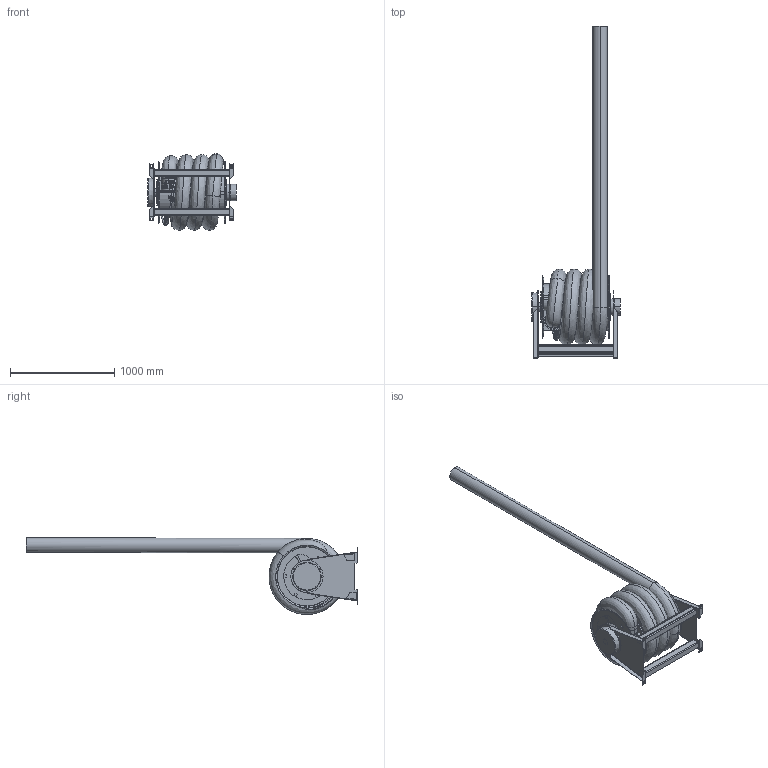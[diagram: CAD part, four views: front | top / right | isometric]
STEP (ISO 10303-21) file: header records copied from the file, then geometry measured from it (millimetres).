
FILE_DESCRIPTION((''),'2;1');
FILE_NAME('ASE_65_125-10','2016-12-14T',('Martin Eriksson'),(''),'CREO PARAMETRIC BY PTC INC, 2016130','CREO PARAMETRIC BY PTC INC, 2016130','');
FILE_SCHEMA(('AUTOMOTIVE_DESIGN { 1 0 10303 214 1 1 1 1 }'));
Length unit declared in the file: millimetre
Products named in the file (23): 110534; 110536; 110801; 111736; 111735; 110561; 112850; 110528; 110591; 110651; 110618; 110685; 110628; G_ASE_DUMMY; 124129; G_ASL-EVO_150CON_BRACKET; GUIDE_125; 110660; 124297; ASL-EVO_65_125_140; SPRING_DUMMY; AG_HOSE_125_140_10; ASE_65_125-10
Assembly tree (27 placements, depth 4):
  ASE_65_125-10
    110561
      110534
      110536
      110801  x2
      111736
      111735
    112850  x2
    ASL-EVO_65_125_140
      110528  x2
      110591
      110651
      110628
        110618
        110685
      G_ASL-EVO_150CON_BRACKET
        G_ASE_DUMMY
        124129
      GUIDE_125
      110660  x2
      124297
    SPRING_DUMMY
    124297
    AG_HOSE_125_140_10
Bounding box: 853.5 x 3190.31 x 738.04 mm (x, y, z)
Volume: 242527122.3 mm3; surface area: 10766925.1 mm2
Topology: 23 solids, 28 shells, 862 faces, 2014 edges, 1208 vertices
Faces by surface type: plane 420, cylinder 267, torus 98, cone 42, bspline 35
Entity records: 37407 total; most frequent: CARTESIAN_POINT 10730, DIRECTION 3226, ORIENTED_EDGE 2920, EDGE_CURVE 1468, PRESENTATION_STYLE_ASSIGNMENT 1362, STYLED_ITEM 1361, AXIS2_PLACEMENT_3D 1187, PROPERTY_DEFINITION 1175
